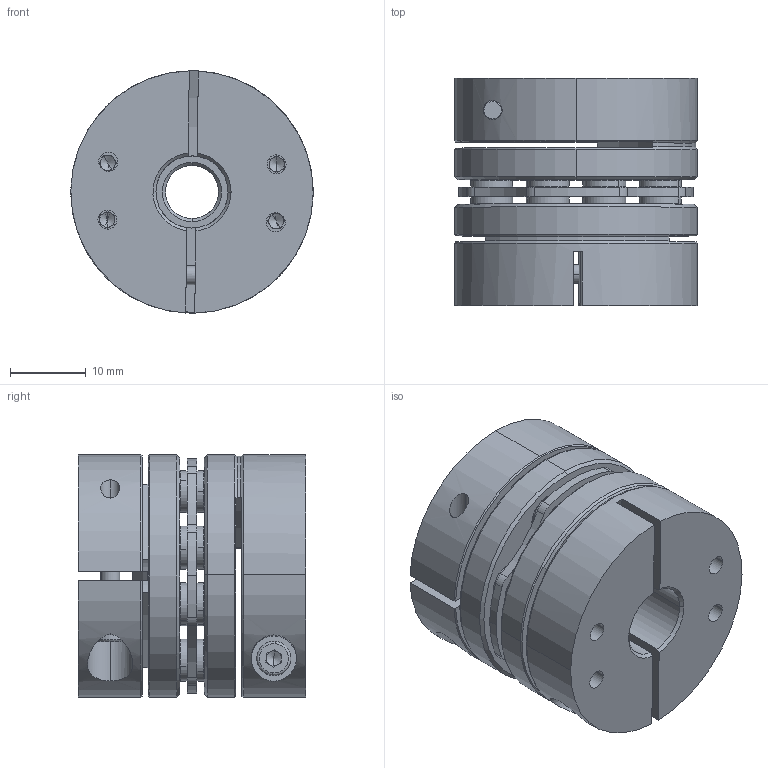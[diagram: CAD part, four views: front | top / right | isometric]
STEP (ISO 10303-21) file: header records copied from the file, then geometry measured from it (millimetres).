
FILE_DESCRIPTION (( 'STEP AP203' ), '1' );
FILE_NAME ('LDG-32-B1-7-9.525.STEP', '2021-10-28T05:09:53', ( '' ), ( '' ), 'SwSTEP 2.0', 'SolidWorks 2018', '' );
FILE_SCHEMA (( 'CONFIG_CONTROL_DESIGN' ));
Length unit declared in the file: millimetre
Products named in the file (2): LDG-32-B1-7-9.525; 錨璃5^LDG-32蚾饜芞1
Assembly tree (1 placements, depth 2):
  LDG-32-B1-7-9.525
    錨璃5^LDG-32蚾饜芞1
Bounding box: 32 x 30 x 32 mm (x, y, z)
Volume: 18455.4 mm3; surface area: 13326.3 mm2
Topology: 1 solids, 11 shells, 795 faces, 1967 edges, 1216 vertices
Faces by surface type: cylinder 301, plane 244, cone 230, torus 20
Entity records: 24191 total; most frequent: CARTESIAN_POINT 4472, DIRECTION 4465, ORIENTED_EDGE 3878, EDGE_CURVE 1939, AXIS2_PLACEMENT_3D 1819, VERTEX_POINT 1216, CIRCLE 1020, EDGE_LOOP 939
